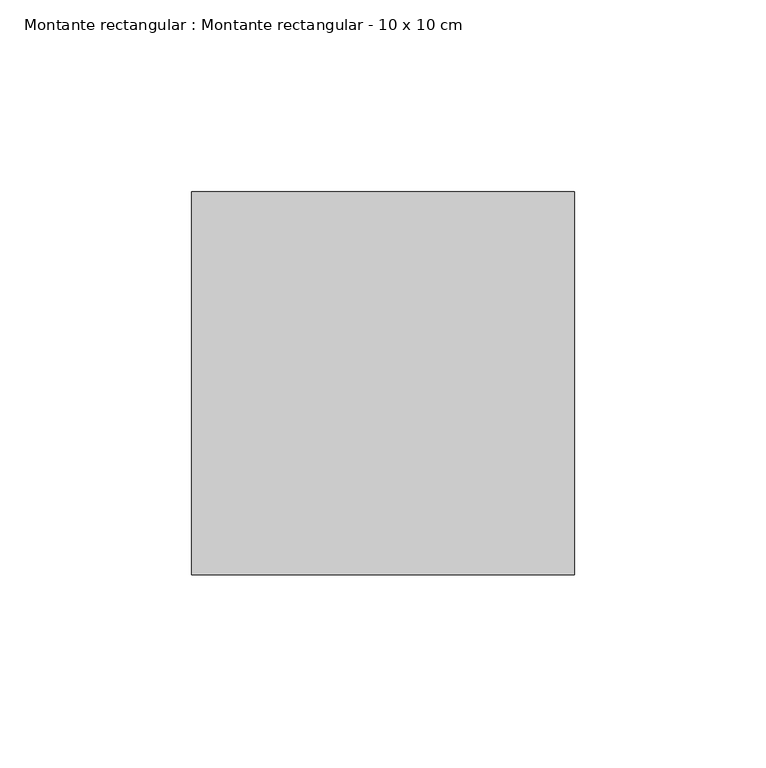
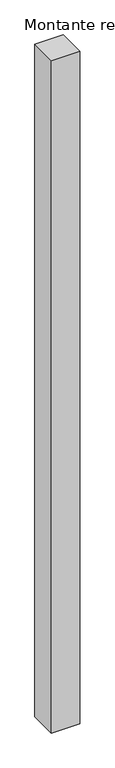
"""IFC4 building model written with IfcOpenShell, lengths in millimetres: member geometry, Montante rectangular : Montante rectangular - 10 x 10 cm."""

from ifc_helpers import new_model, si_unit, frame, origin, place, context, project, spatial, polyline, outline, extrude, source, transform, mapped, element, save


def montante_rectangular_montante_rectangular_10_x_10_cm_c7c7f336(model_context):
    return source(origin(), model_context, "Body", "SweptSolid", [
        extrude(outline(polyline([(0.0, -50.0), (-100.0, -50.0), (-100.0, 50.0), (0.0, 50.0), (0.0, -50.0)])), frame((0.0, 0.0, -2500.0), z_axis=(0.0, 0.0, 1.0), x_axis=(1.0, 0.0, 0.0)), (0.0, 0.0, 1.0), 2500.0),
    ])


if __name__ == "__main__":
    model = new_model("IFC4")
    model_context = context("Model", 3, world=origin())
    ifc_project = project(units=[si_unit("LENGTHUNIT", "METRE", prefix="MILLI")], contexts=[model_context])
    site = spatial("IfcSite", under=ifc_project)
    building = spatial("IfcBuilding", under=site)
    placement = place(None, origin())
    montante_rectangular_montante_rectangular_10_x_10_cm_shape = montante_rectangular_montante_rectangular_10_x_10_cm_c7c7f336(model_context)
    element("IfcMember", 1, ObjectType="Montante rectangular : Montante rectangular - 10 x 10 cm", at=placement, inside=building, context=model_context, shape_type="MappedRepresentation", body=[
        mapped(montante_rectangular_montante_rectangular_10_x_10_cm_shape, transform((0.0, 0.0, 0.0), x_axis=(1.0, 0.0, 0.0), y_axis=(0.0, 1.0, 0.0), z_axis=(0.0, 0.0, 1.0))),
    ])
    save(model, "model.ifc")
